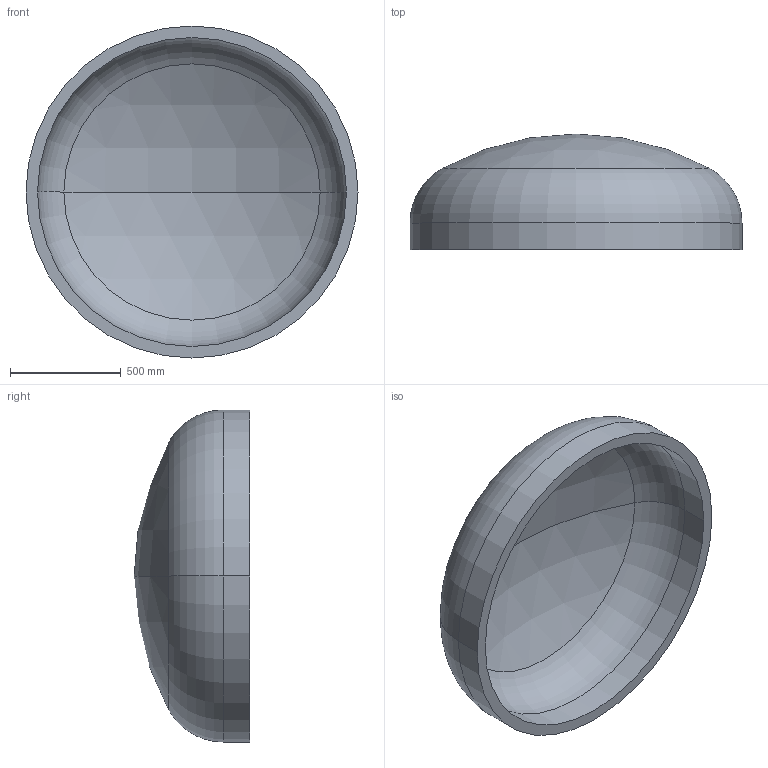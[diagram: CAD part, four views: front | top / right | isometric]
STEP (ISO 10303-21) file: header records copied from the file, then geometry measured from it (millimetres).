
FILE_DESCRIPTION (( 'STEP AP203' ), '1' );
FILE_NAME ('DIN 28013 Korbbogenform_-_Boden DIN 28013 - 1500 x 120 - I - s=52.step', '2016-07-01T10:49:24', ( '' ), ( '' ), 'SwSTEP 2.0', 'SolidWorks 2013', '' );
FILE_SCHEMA (( 'CONFIG_CONTROL_DESIGN' ));
Length unit declared in the file: millimetre
Products named in the file (1): DIN 28013 Korbbogenform_-_Boden DIN 28013 - 1500 x 120 - I - s=52
Bounding box: 1500 x 522.37 x 1500 mm (x, y, z)
Volume: 149933947.8 mm3; surface area: 6008901.3 mm2
Topology: 1 solids, 1 shells, 13 faces, 24 edges, 14 vertices
Faces by surface type: torus 4, cylinder 4, sphere 4, plane 1
Entity records: 407 total; most frequent: DIRECTION 72, CARTESIAN_POINT 52, ORIENTED_EDGE 48, AXIS2_PLACEMENT_3D 34, EDGE_CURVE 24, CIRCLE 20, VERTEX_POINT 14, EDGE_LOOP 14
